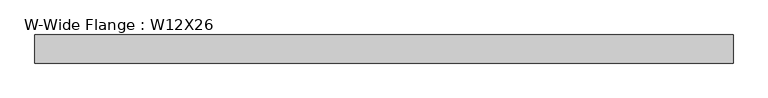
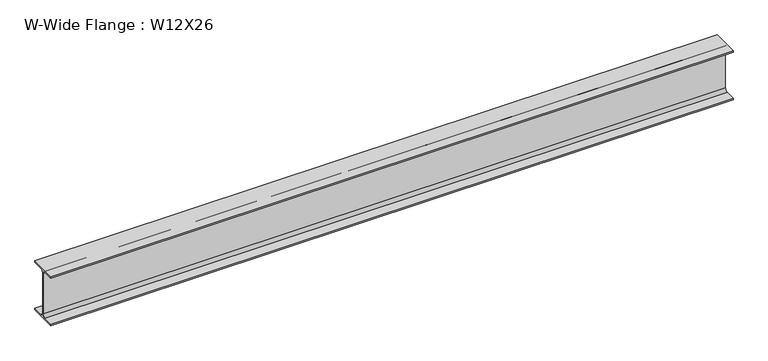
"""IFC4 building model written with IfcOpenShell, lengths in millimetres: beam geometry, W-Wide Flange : W12X26."""

from ifc_helpers import new_model, si_unit, point, frame, frame_2d, origin, place, context, project, spatial, polyline, circle_curve, trimmed, segment, composite_curve, outline, extrude, source, transform, mapped, element, save


def w_wide_flange_w12x26_f50af644(model_context):
    return source(origin(), model_context, "Body", "SweptSolid", [
        extrude(outline(composite_curve([segment(polyline([(82.4011719, -145.5539063), (82.4011719, -155.178125), (-82.4011719, -155.178125), (-82.4011719, -145.5539063), (-20.2902344, -145.5539063)]), True, "CONTINUOUS"), segment(trimmed(circle_curve(frame_2d((-20.2902344, -128.190625)), 17.3632812), [point((-20.2902344, -145.5539063))], [point((-2.9269531, -128.190625))], True, "CARTESIAN"), True, "CONTINUOUS"), segment(polyline([(-2.9269531, -128.190625), (-2.9269531, 128.190625)]), True, "CONTINUOUS"), segment(trimmed(circle_curve(frame_2d((-20.2902344, 128.190625)), 17.3632812), [point((-2.9269531, 128.190625))], [point((-20.2902344, 145.5539062))], True, "CARTESIAN"), True, "CONTINUOUS"), segment(polyline([(-20.2902344, 145.5539062), (-82.4011719, 145.5539062), (-82.4011719, 155.178125), (82.4011719, 155.178125), (82.4011719, 145.5539062), (20.2902344, 145.5539062)]), True, "CONTINUOUS"), segment(trimmed(circle_curve(frame_2d((20.2902344, 128.190625)), 17.3632812), [point((20.2902344, 145.5539062))], [point((2.9269531, 128.190625))], True, "CARTESIAN"), True, "CONTINUOUS"), segment(polyline([(2.9269531, 128.190625), (2.9269531, -128.190625)]), True, "CONTINUOUS"), segment(trimmed(circle_curve(frame_2d((20.2902344, -128.190625)), 17.3632812), [point((2.9269531, -128.190625))], [point((20.2902344, -145.5539063))], True, "CARTESIAN"), True, "CONTINUOUS"), segment(polyline([(20.2902344, -145.5539063), (82.4011719, -145.5539063)]), True, "CONTINUOUS")], self_intersect=False)), frame((-2044.7, 0.0, 0.0), z_axis=(1.0, 0.0, 0.0), x_axis=(0.0, 1.0, 0.0)), (0.0, 0.0, 1.0), 4089.4),
    ])


if __name__ == "__main__":
    model = new_model("IFC4")
    model_context = context("Model", 3, world=origin())
    ifc_project = project(units=[si_unit("LENGTHUNIT", "METRE", prefix="MILLI")], contexts=[model_context])
    site = spatial("IfcSite", under=ifc_project)
    building = spatial("IfcBuilding", under=site)
    placement = place(None, origin())
    w_wide_flange_w12x26_shape = w_wide_flange_w12x26_f50af644(model_context)
    element("IfcBeam", 1, ObjectType="W-Wide Flange : W12X26", at=placement, inside=building, context=model_context, shape_type="MappedRepresentation", body=[
        mapped(w_wide_flange_w12x26_shape, transform((0.0, 0.0, 0.0), x_axis=(1.0, 0.0, 0.0), y_axis=(0.0, 1.0, 0.0), z_axis=(0.0, 0.0, 1.0))),
    ])
    save(model, "model.ifc")
